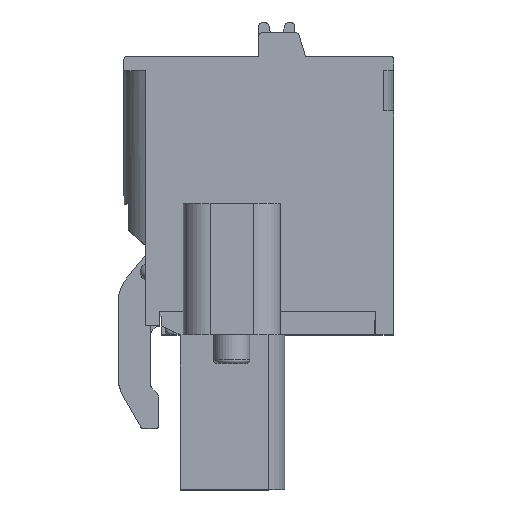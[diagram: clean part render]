
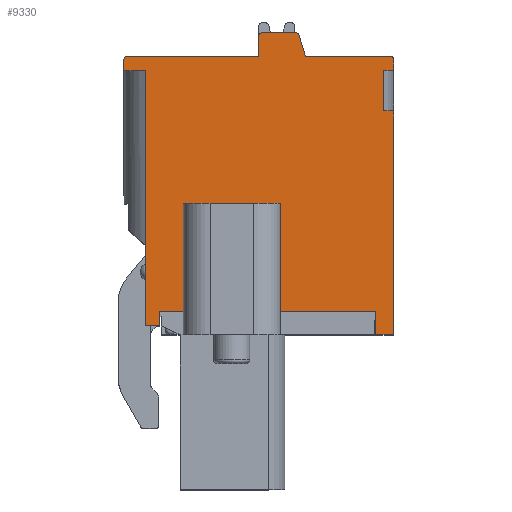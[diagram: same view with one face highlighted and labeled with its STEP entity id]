
A CAD part, top view. The second image highlights one B-rep face of the part: STEP entity #9330.
In plain terms, the highlighted planar face has unit normal (0, 0, 1).
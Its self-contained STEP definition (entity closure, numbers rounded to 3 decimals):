
#109=DIRECTION('',(-1.,0.,0.));
#110=VECTOR('',#109,7.3);
#111=CARTESIAN_POINT('',(7.8,20.7,7.821));
#112=LINE('',#111,#110);
#1773=DIRECTION('',(0.,-1.,0.));
#1774=VECTOR('',#1773,6.);
#1775=CARTESIAN_POINT('',(3.6,12.5,7.821));
#1776=LINE('',#1775,#1774);
#1777=DIRECTION('',(0.,-1.,0.));
#1778=VECTOR('',#1777,0.8);
#1779=CARTESIAN_POINT('',(2.3,6.5,7.821));
#1780=LINE('',#1779,#1778);
#1781=DIRECTION('',(0.,1.,0.));
#1782=VECTOR('',#1781,14.2);
#1783=CARTESIAN_POINT('',(1.5,5.7,7.821));
#1784=LINE('',#1783,#1782);
#1785=DIRECTION('',(-1.,0.,0.));
#1786=VECTOR('',#1785,1.2);
#1787=CARTESIAN_POINT('',(1.5,19.9,7.821));
#1788=LINE('',#1787,#1786);
#1789=DIRECTION('',(0.,1.,0.));
#1790=VECTOR('',#1789,0.6);
#1791=CARTESIAN_POINT('',(0.3,19.9,7.821));
#1792=LINE('',#1791,#1790);
#1793=CARTESIAN_POINT('',(0.5,20.5,7.821));
#1794=DIRECTION('',(0.,0.,-1.));
#1795=DIRECTION('',(-1.,0.,0.));
#1796=AXIS2_PLACEMENT_3D('',#1793,#1794,#1795);
#1798=DIRECTION('',(0.,1.,0.));
#1799=VECTOR('',#1798,1.1);
#1800=CARTESIAN_POINT('',(7.8,20.7,7.821));
#1801=LINE('',#1800,#1799);
#1802=CARTESIAN_POINT('',(8.,21.8,7.821));
#1803=DIRECTION('',(0.,0.,-1.));
#1804=DIRECTION('',(-1.,0.,0.));
#1805=AXIS2_PLACEMENT_3D('',#1802,#1803,#1804);
#1807=DIRECTION('',(1.,0.,0.));
#1808=VECTOR('',#1807,1.852);
#1809=CARTESIAN_POINT('',(8.,22.,7.821));
#1810=LINE('',#1809,#1808);
#1811=CARTESIAN_POINT('',(9.852,21.8,7.821));
#1812=DIRECTION('',(0.,0.,-1.));
#1813=DIRECTION('',(0.,1.,0.));
#1814=AXIS2_PLACEMENT_3D('',#1811,#1812,#1813);
#1816=DIRECTION('',(0.294,-0.956,0.));
#1817=VECTOR('',#1816,1.212);
#1818=CARTESIAN_POINT('',(10.043,21.859,7.821));
#1819=LINE('',#1818,#1817);
#1820=DIRECTION('',(1.,0.,0.));
#1821=VECTOR('',#1820,4.7);
#1822=CARTESIAN_POINT('',(10.4,20.7,7.821));
#1823=LINE('',#1822,#1821);
#1824=CARTESIAN_POINT('',(15.1,20.5,7.821));
#1825=DIRECTION('',(0.,0.,-1.));
#1826=DIRECTION('',(0.,1.,0.));
#1827=AXIS2_PLACEMENT_3D('',#1824,#1825,#1826);
#1829=DIRECTION('',(0.,-1.,0.));
#1830=VECTOR('',#1829,0.6);
#1831=CARTESIAN_POINT('',(15.3,20.5,7.821));
#1832=LINE('',#1831,#1830);
#1833=DIRECTION('',(0.,-1.,0.));
#1834=VECTOR('',#1833,2.25);
#1835=CARTESIAN_POINT('',(14.75,19.9,7.821));
#1836=LINE('',#1835,#1834);
#1837=DIRECTION('',(1.,0.,0.));
#1838=VECTOR('',#1837,0.55);
#1839=CARTESIAN_POINT('',(14.75,17.65,7.821));
#1840=LINE('',#1839,#1838);
#1841=DIRECTION('',(0.,-1.,0.));
#1842=VECTOR('',#1841,12.45);
#1843=CARTESIAN_POINT('',(15.3,17.65,7.821));
#1844=LINE('',#1843,#1842);
#1845=DIRECTION('',(-1.,0.,0.));
#1846=VECTOR('',#1845,1.);
#1847=CARTESIAN_POINT('',(15.3,5.2,7.821));
#1848=LINE('',#1847,#1846);
#1853=DIRECTION('',(0.,-1.,0.));
#1854=VECTOR('',#1853,6.);
#1855=CARTESIAN_POINT('',(9.,12.5,7.821));
#1856=LINE('',#1855,#1854);
#1878=DIRECTION('',(1.,0.,0.));
#1879=VECTOR('',#1878,5.4);
#1880=CARTESIAN_POINT('',(3.6,12.5,7.821));
#1881=LINE('',#1880,#1879);
#1945=DIRECTION('',(1.,0.,0.));
#1946=VECTOR('',#1945,1.3);
#1947=CARTESIAN_POINT('',(2.3,6.5,7.821));
#1948=LINE('',#1947,#1946);
#1957=DIRECTION('',(1.,0.,0.));
#1958=VECTOR('',#1957,5.3);
#1959=CARTESIAN_POINT('',(9.,6.5,7.821));
#1960=LINE('',#1959,#1958);
#3291=DIRECTION('',(0.,-1.,0.));
#3292=VECTOR('',#3291,1.3);
#3293=CARTESIAN_POINT('',(14.3,6.5,7.821));
#3294=LINE('',#3293,#3292);
#3468=DIRECTION('',(1.,0.,0.));
#3469=VECTOR('',#3468,0.55);
#3470=CARTESIAN_POINT('',(14.75,19.9,7.821));
#3471=LINE('',#3470,#3469);
#4389=DIRECTION('',(1.,0.,0.));
#4390=VECTOR('',#4389,0.8);
#4391=CARTESIAN_POINT('',(1.5,5.7,7.821));
#4392=LINE('',#4391,#4390);
#5186=CARTESIAN_POINT('',(7.8,20.7,7.821));
#5187=VERTEX_POINT('',#5186);
#5188=CARTESIAN_POINT('',(0.5,20.7,7.821));
#5189=VERTEX_POINT('',#5188);
#5280=CARTESIAN_POINT('',(0.3,20.5,7.821));
#5282=VERTEX_POINT('',#5280);
#5284=CARTESIAN_POINT('',(0.3,19.9,7.821));
#5285=VERTEX_POINT('',#5284);
#5290=CARTESIAN_POINT('',(9.,12.5,7.821));
#5291=CARTESIAN_POINT('',(9.,6.5,7.821));
#5292=VERTEX_POINT('',#5290);
#5293=VERTEX_POINT('',#5291);
#5294=CARTESIAN_POINT('',(3.6,12.5,7.821));
#5295=VERTEX_POINT('',#5294);
#5296=CARTESIAN_POINT('',(3.6,6.5,7.821));
#5297=VERTEX_POINT('',#5296);
#5298=CARTESIAN_POINT('',(2.3,6.5,7.821));
#5299=VERTEX_POINT('',#5298);
#5300=CARTESIAN_POINT('',(2.3,5.7,7.821));
#5301=VERTEX_POINT('',#5300);
#5302=CARTESIAN_POINT('',(1.5,5.7,7.821));
#5303=VERTEX_POINT('',#5302);
#5304=CARTESIAN_POINT('',(1.5,19.9,7.821));
#5305=VERTEX_POINT('',#5304);
#5306=CARTESIAN_POINT('',(7.8,21.8,7.821));
#5307=VERTEX_POINT('',#5306);
#5308=CARTESIAN_POINT('',(8.,22.,7.821));
#5309=VERTEX_POINT('',#5308);
#5310=CARTESIAN_POINT('',(9.852,22.,7.821));
#5311=VERTEX_POINT('',#5310);
#5312=CARTESIAN_POINT('',(10.043,21.859,7.821));
#5313=VERTEX_POINT('',#5312);
#5314=CARTESIAN_POINT('',(10.4,20.7,7.821));
#5315=VERTEX_POINT('',#5314);
#5316=CARTESIAN_POINT('',(15.1,20.7,7.821));
#5317=VERTEX_POINT('',#5316);
#5318=CARTESIAN_POINT('',(15.3,20.5,7.821));
#5319=VERTEX_POINT('',#5318);
#5320=CARTESIAN_POINT('',(15.3,19.9,7.821));
#5321=VERTEX_POINT('',#5320);
#5322=CARTESIAN_POINT('',(14.75,19.9,7.821));
#5323=VERTEX_POINT('',#5322);
#5324=CARTESIAN_POINT('',(14.75,17.65,7.821));
#5325=VERTEX_POINT('',#5324);
#5326=CARTESIAN_POINT('',(15.3,17.65,7.821));
#5327=VERTEX_POINT('',#5326);
#5328=CARTESIAN_POINT('',(15.3,5.2,7.821));
#5329=VERTEX_POINT('',#5328);
#5330=CARTESIAN_POINT('',(14.3,5.2,7.821));
#5331=VERTEX_POINT('',#5330);
#5332=CARTESIAN_POINT('',(14.3,6.5,7.821));
#5333=VERTEX_POINT('',#5332);
#9277=CARTESIAN_POINT('',(8.7,12.7,7.821));
#9278=DIRECTION('',(0.,0.,1.));
#9279=DIRECTION('',(1.,0.,0.));
#9280=AXIS2_PLACEMENT_3D('',#9277,#9278,#9279);
#9281=PLANE('',#9280);
#9283=ORIENTED_EDGE('',*,*,#9282,.F.);
#9285=ORIENTED_EDGE('',*,*,#9284,.F.);
#9287=ORIENTED_EDGE('',*,*,#9286,.T.);
#9289=ORIENTED_EDGE('',*,*,#9288,.F.);
#9290=ORIENTED_EDGE('',*,*,#8139,.T.);
#9292=ORIENTED_EDGE('',*,*,#9291,.F.);
#9293=ORIENTED_EDGE('',*,*,#8536,.T.);
#9294=ORIENTED_EDGE('',*,*,#6757,.T.);
#9295=ORIENTED_EDGE('',*,*,#6818,.T.);
#9296=ORIENTED_EDGE('',*,*,#6836,.T.);
#9297=ORIENTED_EDGE('',*,*,#6863,.F.);
#9299=ORIENTED_EDGE('',*,*,#9298,.T.);
#9301=ORIENTED_EDGE('',*,*,#9300,.T.);
#9303=ORIENTED_EDGE('',*,*,#9302,.T.);
#9305=ORIENTED_EDGE('',*,*,#9304,.T.);
#9307=ORIENTED_EDGE('',*,*,#9306,.T.);
#9309=ORIENTED_EDGE('',*,*,#9308,.T.);
#9311=ORIENTED_EDGE('',*,*,#9310,.T.);
#9313=ORIENTED_EDGE('',*,*,#9312,.T.);
#9315=ORIENTED_EDGE('',*,*,#9314,.F.);
#9317=ORIENTED_EDGE('',*,*,#9316,.T.);
#9319=ORIENTED_EDGE('',*,*,#9318,.T.);
#9321=ORIENTED_EDGE('',*,*,#9320,.T.);
#9323=ORIENTED_EDGE('',*,*,#9322,.T.);
#9325=ORIENTED_EDGE('',*,*,#9324,.F.);
#9327=ORIENTED_EDGE('',*,*,#9326,.F.);
#9328=EDGE_LOOP('',(#9283,#9285,#9287,#9289,#9290,#9292,#9293,#9294,#9295,#9296,
#9297,#9299,#9301,#9303,#9305,#9307,#9309,#9311,#9313,#9315,#9317,#9319,#9321,
#9323,#9325,#9327));
#9329=FACE_OUTER_BOUND('',#9328,.F.);
#9330=ADVANCED_FACE('',(#9329),#9281,.T.);
#1797=CIRCLE('',#1796,0.2);
#1806=CIRCLE('',#1805,0.2);
#1815=CIRCLE('',#1814,0.2);
#1828=CIRCLE('',#1827,0.2);
#6757=EDGE_CURVE('',#5305,#5285,#1788,.T.);
#6818=EDGE_CURVE('',#5285,#5282,#1792,.T.);
#6836=EDGE_CURVE('',#5282,#5189,#1797,.T.);
#6863=EDGE_CURVE('',#5187,#5189,#112,.T.);
#8139=EDGE_CURVE('',#5299,#5301,#1780,.T.);
#8536=EDGE_CURVE('',#5303,#5305,#1784,.T.);
#9282=EDGE_CURVE('',#5292,#5293,#1856,.T.);
#9284=EDGE_CURVE('',#5295,#5292,#1881,.T.);
#9286=EDGE_CURVE('',#5295,#5297,#1776,.T.);
#9288=EDGE_CURVE('',#5299,#5297,#1948,.T.);
#9291=EDGE_CURVE('',#5303,#5301,#4392,.T.);
#9298=EDGE_CURVE('',#5187,#5307,#1801,.T.);
#9300=EDGE_CURVE('',#5307,#5309,#1806,.T.);
#9302=EDGE_CURVE('',#5309,#5311,#1810,.T.);
#9304=EDGE_CURVE('',#5311,#5313,#1815,.T.);
#9306=EDGE_CURVE('',#5313,#5315,#1819,.T.);
#9308=EDGE_CURVE('',#5315,#5317,#1823,.T.);
#9310=EDGE_CURVE('',#5317,#5319,#1828,.T.);
#9312=EDGE_CURVE('',#5319,#5321,#1832,.T.);
#9314=EDGE_CURVE('',#5323,#5321,#3471,.T.);
#9316=EDGE_CURVE('',#5323,#5325,#1836,.T.);
#9318=EDGE_CURVE('',#5325,#5327,#1840,.T.);
#9320=EDGE_CURVE('',#5327,#5329,#1844,.T.);
#9322=EDGE_CURVE('',#5329,#5331,#1848,.T.);
#9324=EDGE_CURVE('',#5333,#5331,#3294,.T.);
#9326=EDGE_CURVE('',#5293,#5333,#1960,.T.);
